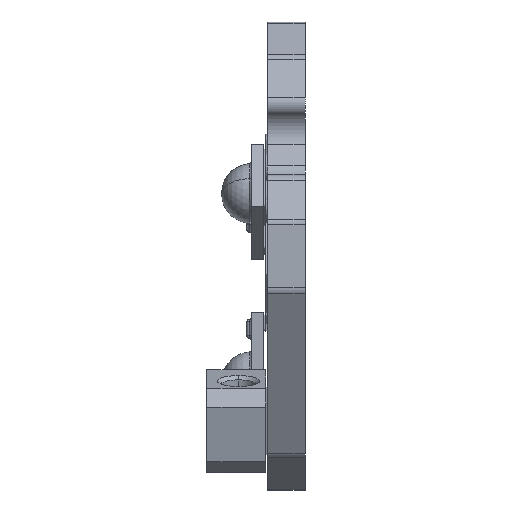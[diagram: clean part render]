
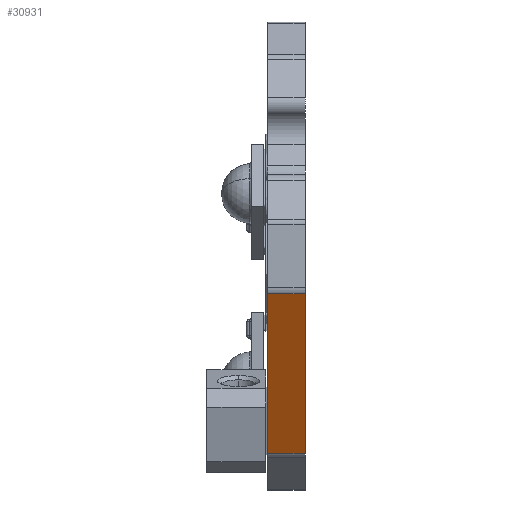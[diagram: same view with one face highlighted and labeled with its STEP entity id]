
A CAD part, left-side view. The second image highlights one B-rep face of the part: STEP entity #30931.
In plain terms, the highlighted planar face has unit normal (-0.866, 0, -0.5).
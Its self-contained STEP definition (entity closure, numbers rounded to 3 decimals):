
#99 = EDGE_CURVE ( 'NONE', #43842, #22800, #28034, .T. ) ;
#346 = CARTESIAN_POINT ( 'NONE',  ( 51.927, 1.6, -32.048 ) ) ;
#1223 = DIRECTION ( 'NONE',  ( -0.5, 0., 0.866 ) ) ;
#1456 = EDGE_CURVE ( 'NONE', #3290, #43842, #28241, .T. ) ;
#1904 = CARTESIAN_POINT ( 'NONE',  ( 48.007, 1.6, -25.259 ) ) ;
#2138 = FACE_OUTER_BOUND ( 'NONE', #36247, .T. ) ;
#3290 = VERTEX_POINT ( 'NONE', #42391 ) ;
#6839 = DIRECTION ( 'NONE',  ( 0.5, 0., -0.866 ) ) ;
#8904 = ORIENTED_EDGE ( 'NONE', *, *, #99, .F. ) ;
#11174 = ORIENTED_EDGE ( 'NONE', *, *, #1456, .F. ) ;
#11842 = DIRECTION ( 'NONE',  ( 0., -1., 0. ) ) ;
#13747 = LINE ( 'NONE', #346, #25398 ) ;
#14372 = ORIENTED_EDGE ( 'NONE', *, *, #31932, .T. ) ;
#15931 = CARTESIAN_POINT ( 'NONE',  ( 48.007, 0., -25.259 ) ) ;
#16636 = VERTEX_POINT ( 'NONE', #34753 ) ;
#19260 = CARTESIAN_POINT ( 'NONE',  ( 48.007, 1.6, -25.259 ) ) ;
#20883 = CARTESIAN_POINT ( 'NONE',  ( 51.927, 1.6, -32.048 ) ) ;
#22800 = VERTEX_POINT ( 'NONE', #15931 ) ;
#23080 = AXIS2_PLACEMENT_3D ( 'NONE', #41104, #33704, #6839 ) ;
#24563 = VECTOR ( 'NONE', #31590, 1000. ) ;
#25151 = CARTESIAN_POINT ( 'NONE',  ( 51.927, 0., -32.048 ) ) ;
#25398 = VECTOR ( 'NONE', #27365, 1000. ) ;
#26049 = PLANE ( 'NONE',  #23080 ) ;
#27365 = DIRECTION ( 'NONE',  ( 0., -1., 0. ) ) ;
#28034 = LINE ( 'NONE', #19260, #39848 ) ;
#28241 = LINE ( 'NONE', #20883, #24563 ) ;
#30931 = ADVANCED_FACE ( 'NONE', ( #2138 ), #26049, .F. ) ;
#31590 = DIRECTION ( 'NONE',  ( -0.5, 0., 0.866 ) ) ;
#31766 = VECTOR ( 'NONE', #1223, 1000. ) ;
#31903 = ORIENTED_EDGE ( 'NONE', *, *, #38254, .T. ) ;
#31932 = EDGE_CURVE ( 'NONE', #16636, #22800, #41784, .T. ) ;
#33704 = DIRECTION ( 'NONE',  ( 0.866, 0., 0.5 ) ) ;
#34753 = CARTESIAN_POINT ( 'NONE',  ( 51.927, 0., -32.048 ) ) ;
#36247 = EDGE_LOOP ( 'NONE', ( #14372, #8904, #11174, #31903 ) ) ;
#38254 = EDGE_CURVE ( 'NONE', #3290, #16636, #13747, .T. ) ;
#39848 = VECTOR ( 'NONE', #11842, 1000. ) ;
#41104 = CARTESIAN_POINT ( 'NONE',  ( 51.927, 1.6, -32.048 ) ) ;
#41784 = LINE ( 'NONE', #25151, #31766 ) ;
#42391 = CARTESIAN_POINT ( 'NONE',  ( 51.927, 1.6, -32.048 ) ) ;
#43842 = VERTEX_POINT ( 'NONE', #1904 ) ;
